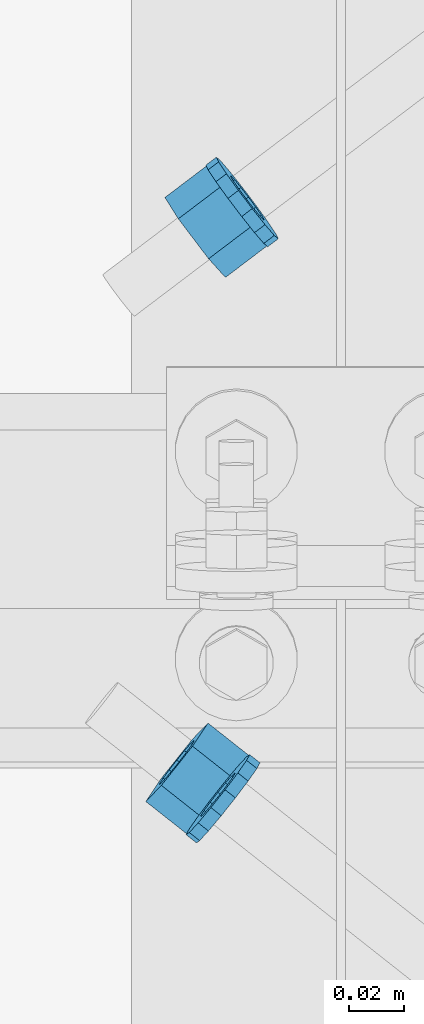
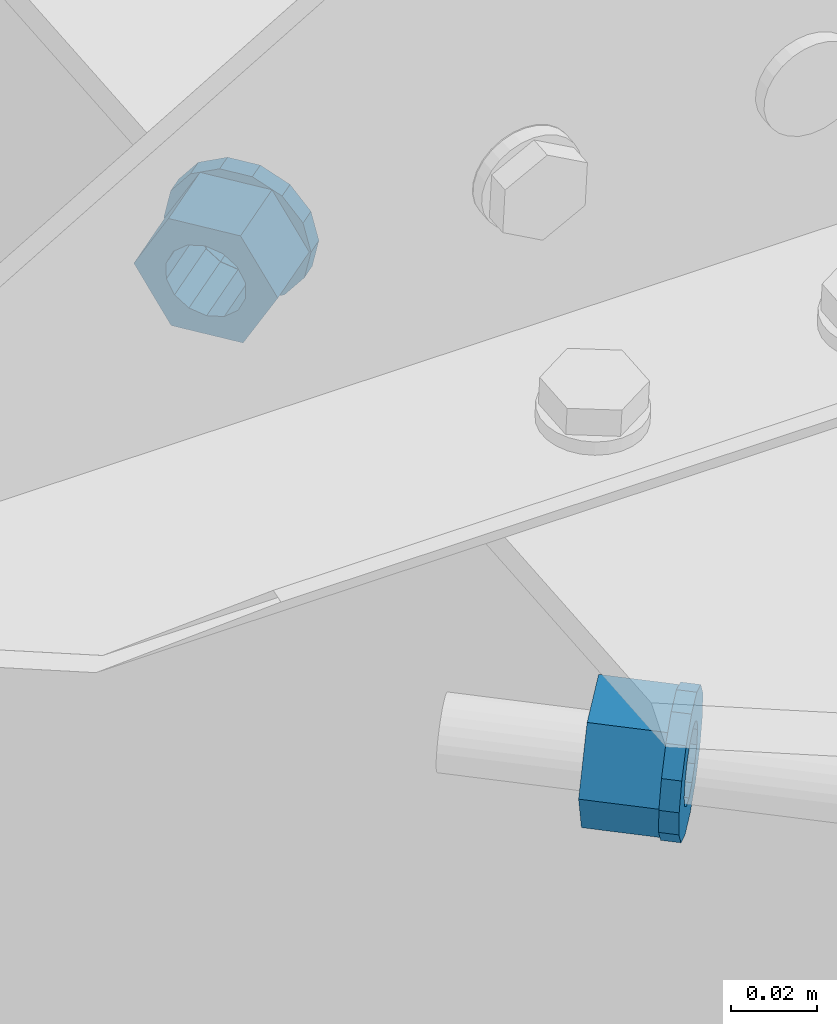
# One storey, part 26 of 185: 4 beams, 4 elements without a shape of their own.
"""IFC2X3 building model written with IfcOpenShell, lengths in millimetres."""

from ifc_helpers import new_model, si_unit, frame, origin_with_axes, place, context, subcontext, project, spatial, polyline, outline, extrude, material, type_object, element, aggregate, save


model = new_model("IFC2X3")

# Units and contexts
model_context = context("Model", 3, precision=1e-05, world=origin_with_axes())
body_context = subcontext(model_context, "Body", "Model", "MODEL_VIEW")
ifc_project = project(units=[si_unit("LENGTHUNIT", "METRE", prefix="MILLI"), si_unit("AREAUNIT", "SQUARE_METRE"), si_unit("VOLUMEUNIT", "CUBIC_METRE"), si_unit("MASSUNIT", "GRAM", prefix="KILO"), si_unit("TIMEUNIT", "SECOND"), si_unit("PLANEANGLEUNIT", "RADIAN"), si_unit("SOLIDANGLEUNIT", "STERADIAN"), si_unit("THERMODYNAMICTEMPERATUREUNIT", "DEGREE_CELSIUS"), si_unit("LUMINOUSINTENSITYUNIT", "LUMEN")], contexts=[model_context])

# Site, building, storey
site_placement = place(None, origin_with_axes())
site = spatial("IfcSite", under=ifc_project, at=site_placement, Name="Undefined", CompositionType="ELEMENT")
building_placement = place(site_placement, origin_with_axes())
building = spatial("IfcBuilding", under=site, at=building_placement, Name="Undefined", CompositionType="ELEMENT")
storey_placement = place(building_placement, origin_with_axes())
storey = spatial("IfcBuildingStorey", under=building, at=storey_placement, Name="Undefined", CompositionType="ELEMENT", Elevation=0.0)

# Assembly, beam
assembly_1_placement = place(storey_placement, origin_with_axes())
assembly_1 = element("IfcElementAssembly", 1, at=assembly_1_placement, inside=storey, Name="Steel Assembly", AssemblyPlace="NOTDEFINED", PredefinedType="RIGID_FRAME")
ifc_material = material(Name="STEEL/55")
beam_type_1 = type_object("IfcBeamType", Name="3/4_HEAVY_HEX_NUT", PredefinedType="NOTDEFINED")
beam_1_placement = place(assembly_1_placement, frame((7194.19347670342, 6516.37912308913, 6376.17342598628), z_axis=(-0.00212448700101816, 0.0803709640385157, -0.996762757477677), x_axis=(-0.784016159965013, 0.618596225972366, 0.0515496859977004)))
beam_1 = element("IfcBeam", 2, at=beam_1_placement, type_object=beam_type_1, material=ifc_material, Name="3/4 H HEX NUT A563", ObjectType="3/4_HEAVY_HEX_NUT", context=body_context, shape_type="SweptSolid", body=[
    extrude(outline(polyline([(9.13000011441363, -15.810000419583), (-9.13000011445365, -15.810000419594), (-18.2600002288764, 1.54614099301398e-11), (-9.13000011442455, 15.8100004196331), (9.13000011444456, 15.8100004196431), (18.2600002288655, 3.36513039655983e-11), (9.13000011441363, -15.810000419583)]), holes=[polyline([(-8.06850066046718, 6.43441456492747), (-10.061255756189, 2.29641597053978), (-10.0612557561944, -2.29641597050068), (-8.06850066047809, -6.43441456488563), (-4.47768005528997, -9.29799844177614), (-1.09139364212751e-11, -10.3199996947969), (4.47768005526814, -9.29799844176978), (8.0685006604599, -6.43441456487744), (10.0612557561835, -2.29641597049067), (10.0612557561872, 2.2964159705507), (8.06850066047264, 6.43441456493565), (4.47768005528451, 9.29799844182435), (7.27595761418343e-12, 10.319999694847), (-4.47768005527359, 9.2979984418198), (-8.06850066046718, 6.43441456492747)])]), frame((19.0500000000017, 0.0, 2.58175642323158e-19), z_axis=(-1.0, 0.0, 0.0), x_axis=(0.0, -1.0, 0.0)), (0.0, 0.0, 1.0), 19.1),
])
aggregate(assembly_1, [beam_1])

assembly_2_placement = place(storey_placement, origin_with_axes())
assembly_2 = element("IfcElementAssembly", 3, at=assembly_2_placement, inside=storey, Name="Steel Assembly", AssemblyPlace="NOTDEFINED", PredefinedType="RIGID_FRAME")
beam_2_placement = place(assembly_2_placement, frame((7201.08277667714, 6730.74368514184, 6394.03713575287), z_axis=(-0.0397325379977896, -0.0307671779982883, 0.998736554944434), x_axis=(-0.796162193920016, -0.602993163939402, -0.0502494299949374)))
beam_2 = element("IfcBeam", 4, at=beam_2_placement, type_object=beam_type_1, material=ifc_material, Name="3/4 H HEX NUT A563", ObjectType="3/4_HEAVY_HEX_NUT", context=body_context, shape_type="SweptSolid", body=[
    extrude(outline(polyline([(9.13000011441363, -15.810000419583), (-9.13000011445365, -15.810000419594), (-18.2600002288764, 1.54614099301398e-11), (-9.13000011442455, 15.8100004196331), (9.13000011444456, 15.8100004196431), (18.2600002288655, 3.36513039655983e-11), (9.13000011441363, -15.810000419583)]), holes=[polyline([(-8.06850066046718, 6.43441456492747), (-10.061255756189, 2.29641597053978), (-10.0612557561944, -2.29641597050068), (-8.06850066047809, -6.43441456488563), (-4.47768005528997, -9.29799844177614), (-1.09139364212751e-11, -10.3199996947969), (4.47768005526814, -9.29799844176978), (8.0685006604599, -6.43441456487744), (10.0612557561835, -2.29641597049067), (10.0612557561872, 2.2964159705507), (8.06850066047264, 6.43441456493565), (4.47768005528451, 9.29799844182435), (7.27595761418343e-12, 10.319999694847), (-4.47768005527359, 9.2979984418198), (-8.06850066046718, 6.43441456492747)])]), frame((19.0500000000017, 0.0, 2.58175642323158e-19), z_axis=(-1.0, 0.0, 0.0), x_axis=(0.0, -1.0, 0.0)), (0.0, 0.0, 1.0), 19.1),
])
aggregate(assembly_2, [beam_2])

assembly_3_placement = place(storey_placement, origin_with_axes())
assembly_3 = element("IfcElementAssembly", 5, at=assembly_3_placement, inside=storey, Name="Steel Assembly", AssemblyPlace="NOTDEFINED", PredefinedType="RIGID_FRAME")
beam_type_2 = type_object("IfcBeamType", Name="3/4_WASHER", PredefinedType="NOTDEFINED")
beam_3_placement = place(assembly_3_placement, frame((7197.92735366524, 6513.43305856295, 6375.92792060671), z_axis=(-0.00212448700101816, 0.0803709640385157, -0.996762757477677), x_axis=(-0.784016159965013, 0.618596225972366, 0.0515496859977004)))
beam_3 = element("IfcBeam", 6, at=beam_3_placement, type_object=beam_type_2, material=ifc_material, Name="3/4 WASHER F844", ObjectType="3/4_WASHER", context=body_context, shape_type="SweptSolid", body=[
    extrude(outline(polyline([(-11.6280845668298, -14.5811568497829), (-16.8030690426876, -8.09193156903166), (-18.649999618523, -4.54747350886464e-12), (-16.8030690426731, 8.09193156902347), (-11.6280845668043, 14.5811568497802), (-4.15001533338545, 18.1824051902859), (4.15001533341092, 18.1824051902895), (11.628084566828, 14.5811568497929), (16.8030690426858, 8.09193156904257), (18.6499996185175, 1.45519152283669e-11), (16.8030690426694, -8.09193156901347), (11.6280845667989, -14.5811568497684), (4.15001533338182, -18.182405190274), (-4.15001533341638, -18.1824051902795), (-11.6280845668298, -14.5811568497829)]), holes=[polyline([(-8.06850066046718, 6.43441456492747), (-10.061255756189, 2.29641597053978), (-10.0612557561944, -2.29641597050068), (-8.06850066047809, -6.43441456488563), (-4.47768005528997, -9.29799844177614), (-1.09139364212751e-11, -10.3199996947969), (4.47768005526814, -9.29799844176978), (8.0685006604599, -6.43441456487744), (10.0612557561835, -2.29641597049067), (10.0612557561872, 2.2964159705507), (8.06850066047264, 6.43441456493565), (4.47768005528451, 9.29799844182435), (7.27595761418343e-12, 10.319999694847), (-4.47768005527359, 9.2979984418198), (-8.06850066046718, 6.43441456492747)])]), frame((4.76250000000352, 2.6437185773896e-16, 5.6843418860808e-14), z_axis=(-1.0, 0.0, 0.0), x_axis=(0.0, -1.0, 0.0)), (0.0, 0.0, 1.0), 4.8),
])
aggregate(assembly_3, [beam_3])

assembly_4_placement = place(storey_placement, origin_with_axes())
assembly_4 = element("IfcElementAssembly", 7, at=assembly_4_placement, inside=storey, Name="Steel Assembly", AssemblyPlace="NOTDEFINED", PredefinedType="RIGID_FRAME")
beam_4_placement = place(assembly_4_placement, frame((7204.87449912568, 6733.61544008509, 6394.27644866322), z_axis=(-0.0397325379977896, -0.0307671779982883, 0.998736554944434), x_axis=(-0.796162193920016, -0.602993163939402, -0.0502494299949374)))
beam_4 = element("IfcBeam", 8, at=beam_4_placement, type_object=beam_type_2, material=ifc_material, Name="3/4 WASHER F844", ObjectType="3/4_WASHER", context=body_context, shape_type="SweptSolid", body=[
    extrude(outline(polyline([(-11.6280845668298, -14.5811568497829), (-16.8030690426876, -8.09193156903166), (-18.649999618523, -4.54747350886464e-12), (-16.8030690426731, 8.09193156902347), (-11.6280845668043, 14.5811568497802), (-4.15001533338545, 18.1824051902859), (4.15001533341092, 18.1824051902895), (11.628084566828, 14.5811568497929), (16.8030690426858, 8.09193156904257), (18.6499996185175, 1.45519152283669e-11), (16.8030690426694, -8.09193156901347), (11.6280845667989, -14.5811568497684), (4.15001533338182, -18.182405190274), (-4.15001533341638, -18.1824051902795), (-11.6280845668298, -14.5811568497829)]), holes=[polyline([(-8.06850066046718, 6.43441456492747), (-10.061255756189, 2.29641597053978), (-10.0612557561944, -2.29641597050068), (-8.06850066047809, -6.43441456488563), (-4.47768005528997, -9.29799844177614), (-1.09139364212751e-11, -10.3199996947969), (4.47768005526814, -9.29799844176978), (8.0685006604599, -6.43441456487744), (10.0612557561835, -2.29641597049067), (10.0612557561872, 2.2964159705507), (8.06850066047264, 6.43441456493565), (4.47768005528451, 9.29799844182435), (7.27595761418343e-12, 10.319999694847), (-4.47768005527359, 9.2979984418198), (-8.06850066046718, 6.43441456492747)])]), frame((4.76250000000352, 2.6437185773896e-16, 5.6843418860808e-14), z_axis=(-1.0, 0.0, 0.0), x_axis=(0.0, -1.0, 0.0)), (0.0, 0.0, 1.0), 4.8),
])
aggregate(assembly_4, [beam_4])

save(model, "model.ifc")
